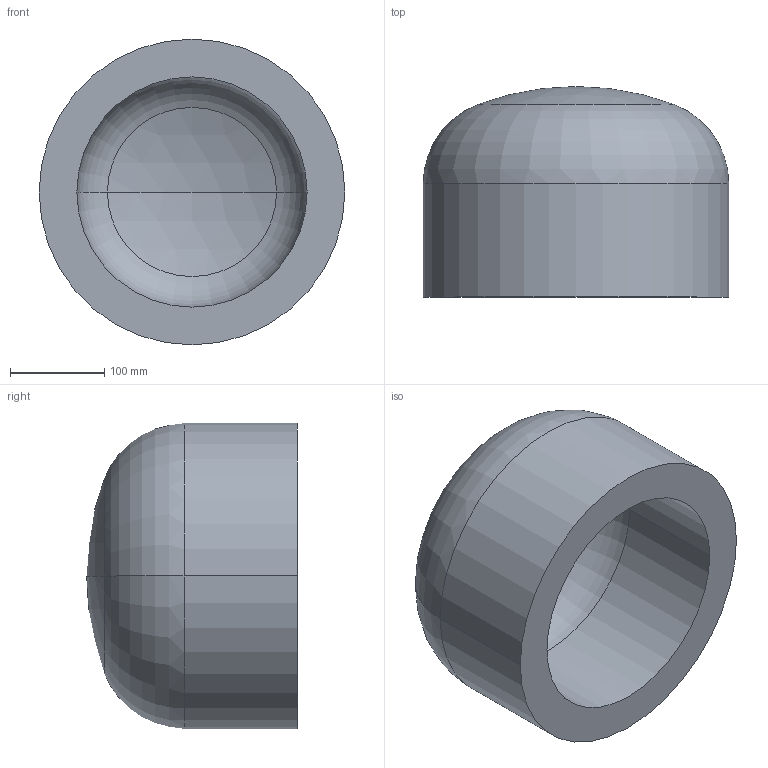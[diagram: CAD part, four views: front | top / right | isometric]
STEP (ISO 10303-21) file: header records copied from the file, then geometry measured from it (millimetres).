
FILE_DESCRIPTION (( 'STEP AP203' ), '1' );
FILE_NAME ('DIN 28013 Korbbogenform_-_Boden DIN 28013 - 323,9 x 120 - I - s=40.step', '2016-07-01T07:45:35', ( '' ), ( '' ), 'SwSTEP 2.0', 'SolidWorks 2013', '' );
FILE_SCHEMA (( 'CONFIG_CONTROL_DESIGN' ));
Length unit declared in the file: millimetre
Products named in the file (1): DIN 28013 Korbbogenform_-_Boden DIN 28013 - 323,9 x 120 - I - s=40
Bounding box: 323.9 x 223.11 x 323.9 mm (x, y, z)
Volume: 8211593.1 mm3; surface area: 449606.6 mm2
Topology: 1 solids, 1 shells, 13 faces, 24 edges, 14 vertices
Faces by surface type: torus 4, cylinder 4, sphere 4, plane 1
Entity records: 407 total; most frequent: DIRECTION 72, CARTESIAN_POINT 52, ORIENTED_EDGE 48, AXIS2_PLACEMENT_3D 34, EDGE_CURVE 24, CIRCLE 20, VERTEX_POINT 14, EDGE_LOOP 14
